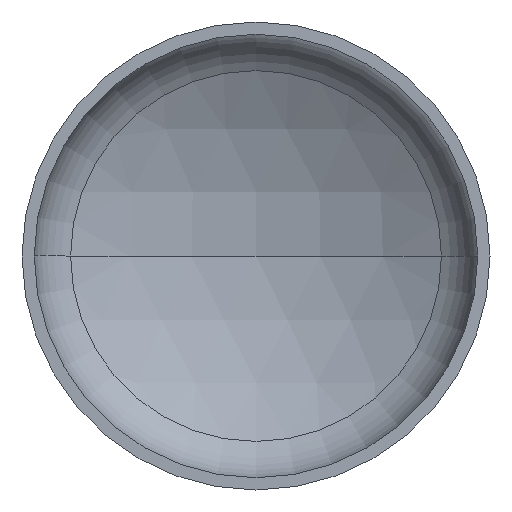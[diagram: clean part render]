
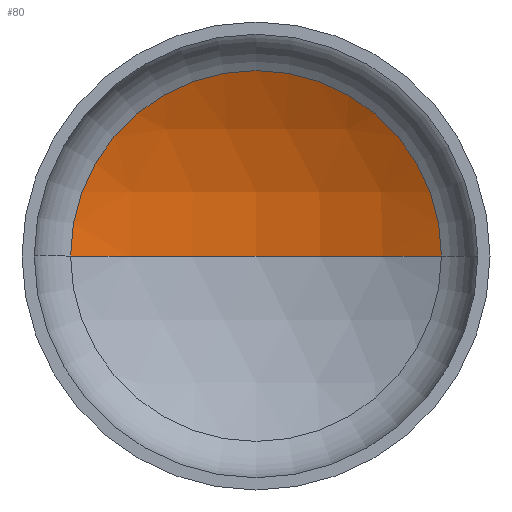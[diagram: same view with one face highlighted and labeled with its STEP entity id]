
A CAD part, front view. The second image highlights one B-rep face of the part: STEP entity #80.
In plain terms, the highlighted spherical face has radius 1040 mm.
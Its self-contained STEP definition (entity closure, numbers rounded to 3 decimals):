
#31 = DIRECTION ( 'NONE',  ( -1., 0., 0. ) ) ;
#42 = DIRECTION ( 'NONE',  ( 1., 0., 0. ) ) ;
#45 = AXIS2_PLACEMENT_3D ( 'NONE', #393, #271, #42 ) ;
#47 = AXIS2_PLACEMENT_3D ( 'NONE', #311, #134, #349 ) ;
#58 = AXIS2_PLACEMENT_3D ( 'NONE', #208, #356, #232 ) ;
#66 = AXIS2_PLACEMENT_3D ( 'NONE', #119, #158, #31 ) ;
#80 = ADVANCED_FACE ( 'NONE', ( #400 ), #233, .F. ) ;
#90 = VERTEX_POINT ( 'NONE', #109 ) ;
#101 = VERTEX_POINT ( 'NONE', #198 ) ;
#107 = ORIENTED_EDGE ( 'NONE', *, *, #175, .T. ) ;
#109 = CARTESIAN_POINT ( 'NONE',  ( -515.048, 283.751, 0. ) ) ;
#114 = VERTEX_POINT ( 'NONE', #194 ) ;
#116 = EDGE_LOOP ( 'NONE', ( #136, #107, #142 ) ) ;
#119 = CARTESIAN_POINT ( 'NONE',  ( 0., -619.756, 0. ) ) ;
#134 = DIRECTION ( 'NONE',  ( 0., 0., -1. ) ) ;
#136 = ORIENTED_EDGE ( 'NONE', *, *, #182, .F. ) ;
#142 = ORIENTED_EDGE ( 'NONE', *, *, #162, .T. ) ;
#158 = DIRECTION ( 'NONE',  ( 0., 0., -1. ) ) ;
#162 = EDGE_CURVE ( 'NONE', #114, #90, #321, .T. ) ;
#175 = EDGE_CURVE ( 'NONE', #101, #114, #279, .T. ) ;
#182 = EDGE_CURVE ( 'NONE', #101, #90, #330, .T. ) ;
#194 = CARTESIAN_POINT ( 'NONE',  ( 515.048, 283.751, 0. ) ) ;
#198 = CARTESIAN_POINT ( 'NONE',  ( 0., 420.244, 0. ) ) ;
#208 = CARTESIAN_POINT ( 'NONE',  ( 0., 283.751, 0. ) ) ;
#232 = DIRECTION ( 'NONE',  ( 1., 0., 0. ) ) ;
#233 = SPHERICAL_SURFACE ( 'NONE', #66, 1040. ) ;
#271 = DIRECTION ( 'NONE',  ( 0., 0., 1. ) ) ;
#279 = CIRCLE ( 'NONE', #47, 1040. ) ;
#311 = CARTESIAN_POINT ( 'NONE',  ( 0., -619.756, 0. ) ) ;
#321 = CIRCLE ( 'NONE', #58, 515.048 ) ;
#330 = CIRCLE ( 'NONE', #45, 1040. ) ;
#349 = DIRECTION ( 'NONE',  ( -1., 0., 0. ) ) ;
#356 = DIRECTION ( 'NONE',  ( 0., -1., 0. ) ) ;
#393 = CARTESIAN_POINT ( 'NONE',  ( 0., -619.756, 0. ) ) ;
#400 = FACE_OUTER_BOUND ( 'NONE', #116, .T. ) ;
